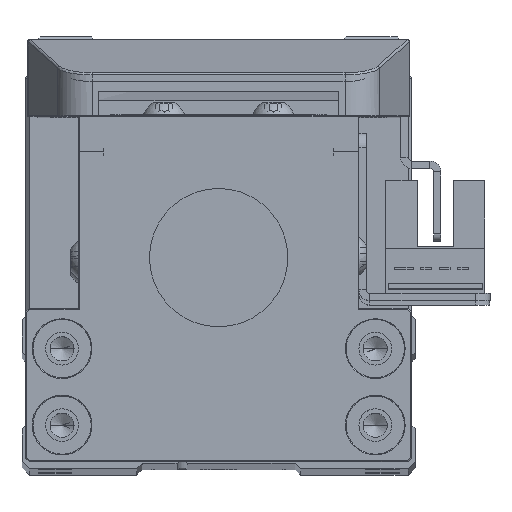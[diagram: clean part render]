
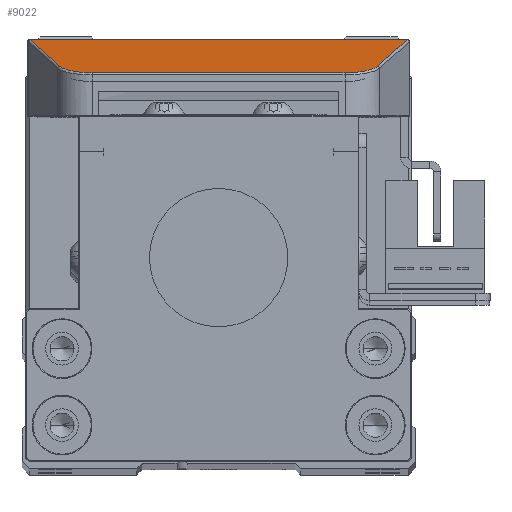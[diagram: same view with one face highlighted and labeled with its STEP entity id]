
A CAD part, top view. The second image highlights one B-rep face of the part: STEP entity #9022.
In plain terms, the highlighted planar face has unit normal (0, 0.962, 0.274) as drawn and (0, 0.274, 0.962) by its records, which use the part's own axes.
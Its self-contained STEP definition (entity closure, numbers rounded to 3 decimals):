
#46 = CARTESIAN_POINT ( 'NONE',  ( 21.179, 24.03, -4.281 ) ) ;
#583 = CARTESIAN_POINT ( 'NONE',  ( -43.406, 25.5, -4.7 ) ) ;
#1127 = LINE ( 'NONE', #21974, #20103 ) ;
#1299 = ORIENTED_EDGE ( 'NONE', *, *, #14705, .T. ) ;
#1348 = CARTESIAN_POINT ( 'NONE',  ( 25.876, 9.269, -0.077 ) ) ;
#1441 =( BOUNDED_CURVE ( )  B_SPLINE_CURVE ( 3, ( #1348, #23761, #31231, #16402 ),
 .UNSPECIFIED., .F., .F. ) 
 B_SPLINE_CURVE_WITH_KNOTS ( ( 4, 4 ),
 ( 5.009, 5.02 ),
 .UNSPECIFIED. ) 
 CURVE ( )  GEOMETRIC_REPRESENTATION_ITEM ( )  RATIONAL_B_SPLINE_CURVE ( ( 1., 1., 1., 1. ) ) 
 REPRESENTATION_ITEM ( '' )  );
#1594 = CARTESIAN_POINT ( 'NONE',  ( 21.823, 22.007, -3.705 ) ) ;
#1837 = EDGE_CURVE ( 'NONE', #22068, #16685, #3818, .T. ) ;
#3703 = VECTOR ( 'NONE', #13584, 1000. ) ;
#3818 = LINE ( 'NONE', #8825, #8852 ) ;
#4614 = VERTEX_POINT ( 'NONE', #23746 ) ;
#4824 = VECTOR ( 'NONE', #11219, 1000. ) ;
#5785 = ORIENTED_EDGE ( 'NONE', *, *, #11298, .T. ) ;
#6342 = DIRECTION ( 'NONE',  ( -0.293, -0.92, 0.262 ) ) ;
#6514 = CARTESIAN_POINT ( 'NONE',  ( 25.87, 9.287, -0.082 ) ) ;
#6979 = CARTESIAN_POINT ( 'NONE',  ( -17.344, 25.282, -4.638 ) ) ;
#7057 = EDGE_CURVE ( 'NONE', #14855, #9095, #32093, .T. ) ;
#7982 = EDGE_LOOP ( 'NONE', ( #15861, #5785, #15440, #21429, #29854, #27266, #19928, #1299 ) ) ;
#8045 = DIRECTION ( 'NONE',  ( 0., 0.962, -0.274 ) ) ;
#8399 = CARTESIAN_POINT ( 'NONE',  ( -25.87, 9.287, -0.082 ) ) ;
#8592 = VERTEX_POINT ( 'NONE', #13472 ) ;
#8825 = CARTESIAN_POINT ( 'NONE',  ( -22.655, 19.393, -2.96 ) ) ;
#8852 = VECTOR ( 'NONE', #6342, 1000. ) ;
#9022 = ADVANCED_FACE ( 'NONE', ( #32070 ), #27721, .F. ) ;
#9095 = VERTEX_POINT ( 'NONE', #13346 ) ;
#9810 =( BOUNDED_CURVE ( )  B_SPLINE_CURVE ( 3, ( #8399, #23231, #25725, #10896 ),
 .UNSPECIFIED., .F., .F. ) 
 B_SPLINE_CURVE_WITH_KNOTS ( ( 4, 4 ),
 ( 1.263, 1.274 ),
 .UNSPECIFIED. ) 
 CURVE ( )  GEOMETRIC_REPRESENTATION_ITEM ( )  RATIONAL_B_SPLINE_CURVE ( ( 1., 1., 1., 1. ) ) 
 REPRESENTATION_ITEM ( '' )  );
#10262 = LINE ( 'NONE', #23438, #3703 ) ;
#10621 = LINE ( 'NONE', #18714, #4824 ) ;
#10896 = CARTESIAN_POINT ( 'NONE',  ( -25.876, 9.269, -0.077 ) ) ;
#11219 = DIRECTION ( 'NONE',  ( -0.293, 0.92, -0.262 ) ) ;
#11298 = EDGE_CURVE ( 'NONE', #8592, #13617, #1441, .T. ) ;
#12361 = CARTESIAN_POINT ( 'NONE',  ( 21.823, 22.007, -3.705 ) ) ;
#13346 = CARTESIAN_POINT ( 'NONE',  ( 17.344, 25.282, -4.638 ) ) ;
#13472 = CARTESIAN_POINT ( 'NONE',  ( 25.876, 9.269, -0.077 ) ) ;
#13584 = DIRECTION ( 'NONE',  ( 1., 0., 0. ) ) ;
#13617 = VERTEX_POINT ( 'NONE', #6514 ) ;
#14446 = CARTESIAN_POINT ( 'NONE',  ( -21.823, 22.007, -3.705 ) ) ;
#14705 = EDGE_CURVE ( 'NONE', #16685, #4614, #9810, .T. ) ;
#14855 = VERTEX_POINT ( 'NONE', #1594 ) ;
#14867 = CARTESIAN_POINT ( 'NONE',  ( 19.466, 25.282, -4.638 ) ) ;
#15440 = ORIENTED_EDGE ( 'NONE', *, *, #29639, .T. ) ;
#15861 = ORIENTED_EDGE ( 'NONE', *, *, #28870, .T. ) ;
#16402 = CARTESIAN_POINT ( 'NONE',  ( 25.87, 9.287, -0.082 ) ) ;
#16685 = VERTEX_POINT ( 'NONE', #31869 ) ;
#18714 = CARTESIAN_POINT ( 'NONE',  ( 15.221, 42.754, -9.615 ) ) ;
#19853 = CARTESIAN_POINT ( 'NONE',  ( 17.344, 25.282, -4.638 ) ) ;
#19928 = ORIENTED_EDGE ( 'NONE', *, *, #1837, .T. ) ;
#20103 = VECTOR ( 'NONE', #24466, 1000. ) ;
#21429 = ORIENTED_EDGE ( 'NONE', *, *, #7057, .T. ) ;
#21626 = EDGE_CURVE ( 'NONE', #9095, #27561, #1127, .T. ) ;
#21833 = CARTESIAN_POINT ( 'NONE',  ( -19.466, 25.282, -4.638 ) ) ;
#21974 = CARTESIAN_POINT ( 'NONE',  ( -17.344, 25.282, -4.638 ) ) ;
#22068 = VERTEX_POINT ( 'NONE', #26371 ) ;
#22309 =( BOUNDED_CURVE ( )  B_SPLINE_CURVE ( 3, ( #6979, #21833, #29281, #14446 ),
 .UNSPECIFIED., .F., .F. ) 
 B_SPLINE_CURVE_WITH_KNOTS ( ( 4, 4 ),
 ( 0., 1.263 ),
 .UNSPECIFIED. ) 
 CURVE ( )  GEOMETRIC_REPRESENTATION_ITEM ( )  RATIONAL_B_SPLINE_CURVE ( ( 1., 0.871, 0.871, 1. ) ) 
 REPRESENTATION_ITEM ( '' )  );
#22873 = DIRECTION ( 'NONE',  ( 0., -0.274, -0.962 ) ) ;
#23231 = CARTESIAN_POINT ( 'NONE',  ( -25.872, 9.281, -0.08 ) ) ;
#23438 = CARTESIAN_POINT ( 'NONE',  ( 26.25, 9.269, -0.077 ) ) ;
#23746 = CARTESIAN_POINT ( 'NONE',  ( -25.876, 9.269, -0.077 ) ) ;
#23761 = CARTESIAN_POINT ( 'NONE',  ( 25.874, 9.275, -0.078 ) ) ;
#24396 = EDGE_CURVE ( 'NONE', #27561, #22068, #22309, .T. ) ;
#24466 = DIRECTION ( 'NONE',  ( -1., 0., 0. ) ) ;
#25725 = CARTESIAN_POINT ( 'NONE',  ( -25.874, 9.275, -0.078 ) ) ;
#26371 = CARTESIAN_POINT ( 'NONE',  ( -21.823, 22.007, -3.705 ) ) ;
#27266 = ORIENTED_EDGE ( 'NONE', *, *, #24396, .T. ) ;
#27561 = VERTEX_POINT ( 'NONE', #30679 ) ;
#27721 = PLANE ( 'NONE',  #28336 ) ;
#28336 = AXIS2_PLACEMENT_3D ( 'NONE', #583, #22873, #8045 ) ;
#28870 = EDGE_CURVE ( 'NONE', #4614, #8592, #10262, .T. ) ;
#29281 = CARTESIAN_POINT ( 'NONE',  ( -21.179, 24.03, -4.281 ) ) ;
#29639 = EDGE_CURVE ( 'NONE', #13617, #14855, #10621, .T. ) ;
#29854 = ORIENTED_EDGE ( 'NONE', *, *, #21626, .T. ) ;
#30679 = CARTESIAN_POINT ( 'NONE',  ( -17.344, 25.282, -4.638 ) ) ;
#31231 = CARTESIAN_POINT ( 'NONE',  ( 25.872, 9.281, -0.08 ) ) ;
#31869 = CARTESIAN_POINT ( 'NONE',  ( -25.87, 9.287, -0.082 ) ) ;
#32070 = FACE_OUTER_BOUND ( 'NONE', #7982, .T. ) ;
#32093 =( BOUNDED_CURVE ( )  B_SPLINE_CURVE ( 3, ( #12361, #46, #14867, #19853 ),
 .UNSPECIFIED., .F., .F. ) 
 B_SPLINE_CURVE_WITH_KNOTS ( ( 4, 4 ),
 ( 5.02, 6.283 ),
 .UNSPECIFIED. ) 
 CURVE ( )  GEOMETRIC_REPRESENTATION_ITEM ( )  RATIONAL_B_SPLINE_CURVE ( ( 1., 0.871, 0.871, 1. ) ) 
 REPRESENTATION_ITEM ( '' )  );
